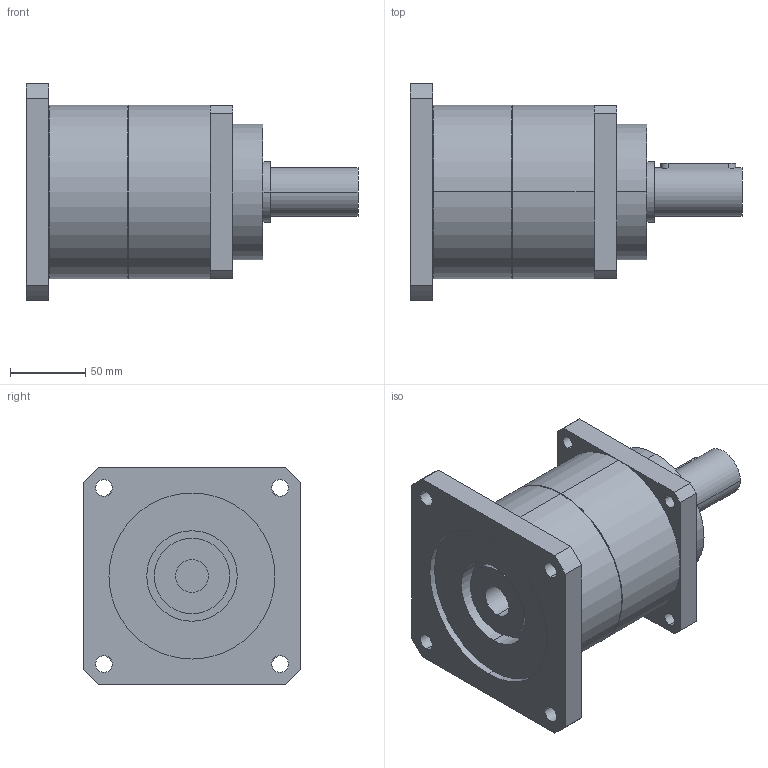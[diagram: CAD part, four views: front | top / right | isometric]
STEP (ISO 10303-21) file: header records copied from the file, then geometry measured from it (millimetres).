
FILE_DESCRIPTION(('CoCreate Modeling STEP Export'),'2;1');
FILE_NAME('GPT120_ig-3-4-5-7-10_32_B5A_22_P22.stp','2015-02-04T16:59:37',(''),(''),'CoCreate Modeling STEP processor for AP214 (Solid Model)','CoCreate Modeling 16.00C 25-Feb-2009 (C) Parametric Technology GmbH','');
FILE_SCHEMA(('AUTOMOTIVE_DESIGN { 1 0 10303 214 1 1 1 1 }'));
Length unit declared in the file: millimetre
Products named in the file (2): GPT120_ig-3-4-5-7-10_32_B5A_22_P22
Assembly tree (1 placements, depth 2):
  GPT120_ig-3-4-5-7-10_32_B5A_22_P22
    GPT120_ig-3-4-5-7-10_32_B5A_22_P22
Bounding box: 220 x 144 x 144 mm (x, y, z)
Volume: 1706460.3 mm3; surface area: 125233 mm2
Topology: 1 solids, 1 shells, 77 faces, 202 edges, 137 vertices
Faces by surface type: cylinder 46, plane 27, cone 4
Entity records: 2558 total; most frequent: CARTESIAN_POINT 757, ORIENTED_EDGE 404, DIRECTION 320, EDGE_CURVE 202, VERTEX_POINT 137, AXIS2_PLACEMENT_3D 118, EDGE_LOOP 103, VECTOR 84
